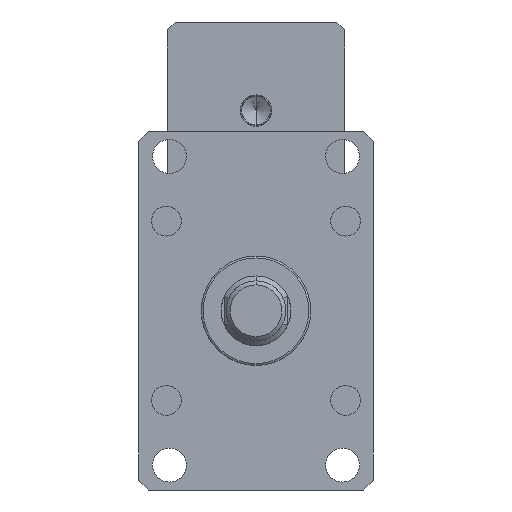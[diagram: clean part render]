
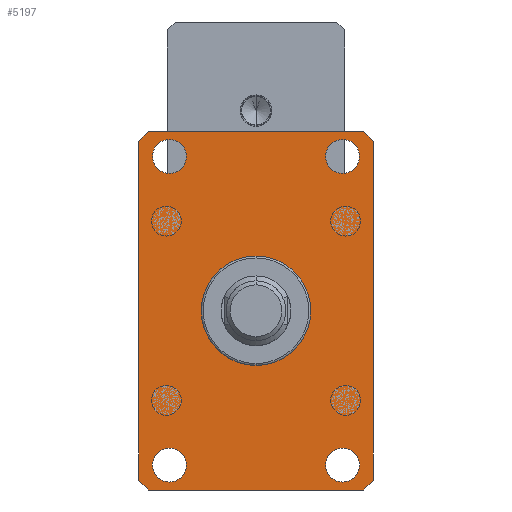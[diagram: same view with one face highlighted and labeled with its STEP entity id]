
A CAD part, front view. The second image highlights one B-rep face of the part: STEP entity #5197.
In plain terms, the highlighted planar face has unit normal (0, -1, 0).
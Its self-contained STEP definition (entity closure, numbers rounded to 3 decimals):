
#35 = CIRCLE ( 'NONE', #331, 8.5 ) ;
#55 = LINE ( 'NONE', #11313, #7815 ) ;
#56 = PLANE ( 'NONE',  #8055 ) ;
#60 = EDGE_CURVE ( 'NONE', #4191, #1963, #3021, .T. ) ;
#70 = CARTESIAN_POINT ( 'NONE',  ( -54., -55., 90. ) ) ;
#120 = VERTEX_POINT ( 'NONE', #70 ) ;
#227 = CARTESIAN_POINT ( 'NONE',  ( 59., -55., -85. ) ) ;
#240 = CIRCLE ( 'NONE', #5746, 8.5 ) ;
#331 = AXIS2_PLACEMENT_3D ( 'NONE', #10711, #4951, #11686 ) ;
#368 = DIRECTION ( 'NONE',  ( 0., 0., 1. ) ) ;
#477 = AXIS2_PLACEMENT_3D ( 'NONE', #11969, #6225, #368 ) ;
#603 = ORIENTED_EDGE ( 'NONE', *, *, #4430, .T. ) ;
#670 = ORIENTED_EDGE ( 'NONE', *, *, #6238, .F. ) ;
#756 = VERTEX_POINT ( 'NONE', #6254 ) ;
#789 = ORIENTED_EDGE ( 'NONE', *, *, #7991, .T. ) ;
#917 = DIRECTION ( 'NONE',  ( 0., 1., 0. ) ) ;
#1025 = DIRECTION ( 'NONE',  ( 0., 0., 1. ) ) ;
#1121 = CIRCLE ( 'NONE', #477, 8.5 ) ;
#1174 = DIRECTION ( 'NONE',  ( 0.707, 0., 0.707 ) ) ;
#1267 = ORIENTED_EDGE ( 'NONE', *, *, #60, .F. ) ;
#1363 = VERTEX_POINT ( 'NONE', #2642 ) ;
#1384 = CIRCLE ( 'NONE', #6865, 8.5 ) ;
#1399 = CIRCLE ( 'NONE', #9119, 8.5 ) ;
#1408 = FACE_BOUND ( 'NONE', #2543, .T. ) ;
#1484 = EDGE_CURVE ( 'NONE', #11300, #4859, #6363, .T. ) ;
#1696 = CARTESIAN_POINT ( 'NONE',  ( 54., -55., 90. ) ) ;
#1963 = VERTEX_POINT ( 'NONE', #5505 ) ;
#1997 = VERTEX_POINT ( 'NONE', #11362 ) ;
#2142 = EDGE_LOOP ( 'NONE', ( #3308, #11932 ) ) ;
#2332 = CARTESIAN_POINT ( 'NONE',  ( -43.5, -55., -69. ) ) ;
#2524 = CARTESIAN_POINT ( 'NONE',  ( 54., -55., 90. ) ) ;
#2543 = EDGE_LOOP ( 'NONE', ( #670, #5198 ) ) ;
#2563 = VERTEX_POINT ( 'NONE', #5664 ) ;
#2642 = CARTESIAN_POINT ( 'NONE',  ( -59., -55., 85. ) ) ;
#2652 = DIRECTION ( 'NONE',  ( -0.707, 0., -0.707 ) ) ;
#2956 = AXIS2_PLACEMENT_3D ( 'NONE', #5819, #12522, #6762 ) ;
#2965 = CARTESIAN_POINT ( 'NONE',  ( -43.5, -55., -77.5 ) ) ;
#3021 = CIRCLE ( 'NONE', #2956, 8.5 ) ;
#3200 = ORIENTED_EDGE ( 'NONE', *, *, #6112, .F. ) ;
#3262 = DIRECTION ( 'NONE',  ( 0., -1., 0. ) ) ;
#3308 = ORIENTED_EDGE ( 'NONE', *, *, #8142, .T. ) ;
#3430 = CARTESIAN_POINT ( 'NONE',  ( 43.5, -55., 77.5 ) ) ;
#3498 = EDGE_LOOP ( 'NONE', ( #603, #5841 ) ) ;
#3530 = DIRECTION ( 'NONE',  ( -0.707, 0., 0.707 ) ) ;
#3598 = CARTESIAN_POINT ( 'NONE',  ( 59., -55., 85. ) ) ;
#3965 = DIRECTION ( 'NONE',  ( 0., 0., 1. ) ) ;
#4038 = FACE_BOUND ( 'NONE', #10050, .T. ) ;
#4124 = EDGE_LOOP ( 'NONE', ( #5598, #6821, #6423, #789, #6303, #11714, #7271, #10001 ) ) ;
#4185 = CARTESIAN_POINT ( 'NONE',  ( 43.5, -55., -77.5 ) ) ;
#4191 = VERTEX_POINT ( 'NONE', #7656 ) ;
#4389 = VECTOR ( 'NONE', #7648, 1000. ) ;
#4393 = EDGE_CURVE ( 'NONE', #2563, #1997, #9288, .T. ) ;
#4400 = CARTESIAN_POINT ( 'NONE',  ( -54., -55., -90. ) ) ;
#4406 = CARTESIAN_POINT ( 'NONE',  ( 43.5, -55., 69. ) ) ;
#4412 = EDGE_CURVE ( 'NONE', #1363, #9359, #6752, .T. ) ;
#4417 = DIRECTION ( 'NONE',  ( 0., 0., -1. ) ) ;
#4430 = EDGE_CURVE ( 'NONE', #7416, #756, #8696, .T. ) ;
#4586 = EDGE_CURVE ( 'NONE', #7285, #5043, #9440, .T. ) ;
#4600 = CARTESIAN_POINT ( 'NONE',  ( -59., -55., 85. ) ) ;
#4825 = EDGE_CURVE ( 'NONE', #756, #7416, #1121, .T. ) ;
#4859 = VERTEX_POINT ( 'NONE', #2332 ) ;
#4893 = EDGE_CURVE ( 'NONE', #11651, #11508, #240, .T. ) ;
#4951 = DIRECTION ( 'NONE',  ( 0., -1., 0. ) ) ;
#4998 = VECTOR ( 'NONE', #2652, 1000. ) ;
#5002 = EDGE_CURVE ( 'NONE', #1997, #7285, #10984, .T. ) ;
#5043 = VERTEX_POINT ( 'NONE', #1696 ) ;
#5089 = CARTESIAN_POINT ( 'NONE',  ( -59., -55., 85. ) ) ;
#5174 = DIRECTION ( 'NONE',  ( 0., 0., 1. ) ) ;
#5197 = ADVANCED_FACE ( 'NONE', ( #4038, #11450, #8862, #6336, #1408 ), #56, .F. ) ;
#5198 = ORIENTED_EDGE ( 'NONE', *, *, #4893, .F. ) ;
#5438 = AXIS2_PLACEMENT_3D ( 'NONE', #6755, #917, #7713 ) ;
#5505 = CARTESIAN_POINT ( 'NONE',  ( -43.5, -55., 86. ) ) ;
#5558 = AXIS2_PLACEMENT_3D ( 'NONE', #4185, #10929, #5174 ) ;
#5598 = ORIENTED_EDGE ( 'NONE', *, *, #9590, .T. ) ;
#5664 = CARTESIAN_POINT ( 'NONE',  ( 54., -55., -90. ) ) ;
#5746 = AXIS2_PLACEMENT_3D ( 'NONE', #3430, #10180, #4417 ) ;
#5809 = CARTESIAN_POINT ( 'NONE',  ( -43.5, -55., -86. ) ) ;
#5819 = CARTESIAN_POINT ( 'NONE',  ( -43.5, -55., 77.5 ) ) ;
#5841 = ORIENTED_EDGE ( 'NONE', *, *, #4825, .T. ) ;
#6112 = EDGE_CURVE ( 'NONE', #1963, #4191, #35, .T. ) ;
#6135 = CARTESIAN_POINT ( 'NONE',  ( 43.5, -55., 86. ) ) ;
#6225 = DIRECTION ( 'NONE',  ( 0., 1., 0. ) ) ;
#6238 = EDGE_CURVE ( 'NONE', #11508, #11651, #1384, .T. ) ;
#6254 = CARTESIAN_POINT ( 'NONE',  ( 43.5, -55., -86. ) ) ;
#6303 = ORIENTED_EDGE ( 'NONE', *, *, #10011, .T. ) ;
#6336 = FACE_OUTER_BOUND ( 'NONE', #4124, .T. ) ;
#6363 = CIRCLE ( 'NONE', #5438, 8.5 ) ;
#6423 = ORIENTED_EDGE ( 'NONE', *, *, #4412, .T. ) ;
#6454 = VECTOR ( 'NONE', #7988, 1000. ) ;
#6509 = VECTOR ( 'NONE', #7915, 1000. ) ;
#6752 = LINE ( 'NONE', #5089, #6454 ) ;
#6755 = CARTESIAN_POINT ( 'NONE',  ( -43.5, -55., -77.5 ) ) ;
#6762 = DIRECTION ( 'NONE',  ( 0., 0., -1. ) ) ;
#6821 = ORIENTED_EDGE ( 'NONE', *, *, #12146, .T. ) ;
#6865 = AXIS2_PLACEMENT_3D ( 'NONE', #9044, #3262, #10023 ) ;
#6871 = DIRECTION ( 'NONE',  ( 0., 1., 0. ) ) ;
#7082 = CARTESIAN_POINT ( 'NONE',  ( 59., -55., 85. ) ) ;
#7188 = VECTOR ( 'NONE', #3530, 1000. ) ;
#7271 = ORIENTED_EDGE ( 'NONE', *, *, #5002, .T. ) ;
#7285 = VERTEX_POINT ( 'NONE', #7082 ) ;
#7406 = CARTESIAN_POINT ( 'NONE',  ( -59., -55., -85. ) ) ;
#7416 = VERTEX_POINT ( 'NONE', #8233 ) ;
#7648 = DIRECTION ( 'NONE',  ( 1., 0., 0. ) ) ;
#7656 = CARTESIAN_POINT ( 'NONE',  ( -43.5, -55., 69. ) ) ;
#7713 = DIRECTION ( 'NONE',  ( 0., 0., 1. ) ) ;
#7815 = VECTOR ( 'NONE', #12283, 1000. ) ;
#7895 = VERTEX_POINT ( 'NONE', #4400 ) ;
#7915 = DIRECTION ( 'NONE',  ( -1., 0., 0. ) ) ;
#7988 = DIRECTION ( 'NONE',  ( 0., 0., -1. ) ) ;
#7991 = EDGE_CURVE ( 'NONE', #9359, #7895, #55, .T. ) ;
#8055 = AXIS2_PLACEMENT_3D ( 'NONE', #8747, #6871, #1025 ) ;
#8142 = EDGE_CURVE ( 'NONE', #4859, #11300, #1399, .T. ) ;
#8233 = CARTESIAN_POINT ( 'NONE',  ( 43.5, -55., -69. ) ) ;
#8418 = VECTOR ( 'NONE', #10344, 1000. ) ;
#8696 = CIRCLE ( 'NONE', #5558, 8.5 ) ;
#8747 = CARTESIAN_POINT ( 'NONE',  ( 59., -55., 90. ) ) ;
#8862 = FACE_BOUND ( 'NONE', #2142, .T. ) ;
#9044 = CARTESIAN_POINT ( 'NONE',  ( 43.5, -55., 77.5 ) ) ;
#9119 = AXIS2_PLACEMENT_3D ( 'NONE', #2965, #9735, #3965 ) ;
#9288 = LINE ( 'NONE', #227, #11581 ) ;
#9359 = VERTEX_POINT ( 'NONE', #7406 ) ;
#9440 = LINE ( 'NONE', #2524, #7188 ) ;
#9590 = EDGE_CURVE ( 'NONE', #5043, #120, #11016, .T. ) ;
#9735 = DIRECTION ( 'NONE',  ( 0., 1., 0. ) ) ;
#9833 = CARTESIAN_POINT ( 'NONE',  ( -54., -55., 90. ) ) ;
#10001 = ORIENTED_EDGE ( 'NONE', *, *, #4586, .T. ) ;
#10011 = EDGE_CURVE ( 'NONE', #7895, #2563, #12080, .T. ) ;
#10023 = DIRECTION ( 'NONE',  ( 0., 0., -1. ) ) ;
#10050 = EDGE_LOOP ( 'NONE', ( #3200, #1267 ) ) ;
#10098 = LINE ( 'NONE', #4600, #4998 ) ;
#10180 = DIRECTION ( 'NONE',  ( 0., -1., 0. ) ) ;
#10344 = DIRECTION ( 'NONE',  ( 0., 0., 1. ) ) ;
#10711 = CARTESIAN_POINT ( 'NONE',  ( -43.5, -55., 77.5 ) ) ;
#10929 = DIRECTION ( 'NONE',  ( 0., 1., 0. ) ) ;
#10984 = LINE ( 'NONE', #3598, #8418 ) ;
#11016 = LINE ( 'NONE', #9833, #6509 ) ;
#11300 = VERTEX_POINT ( 'NONE', #5809 ) ;
#11313 = CARTESIAN_POINT ( 'NONE',  ( -59., -55., -85. ) ) ;
#11362 = CARTESIAN_POINT ( 'NONE',  ( 59., -55., -85. ) ) ;
#11450 = FACE_BOUND ( 'NONE', #3498, .T. ) ;
#11494 = CARTESIAN_POINT ( 'NONE',  ( -54., -55., -90. ) ) ;
#11508 = VERTEX_POINT ( 'NONE', #6135 ) ;
#11581 = VECTOR ( 'NONE', #1174, 1000. ) ;
#11651 = VERTEX_POINT ( 'NONE', #4406 ) ;
#11686 = DIRECTION ( 'NONE',  ( 0., 0., -1. ) ) ;
#11714 = ORIENTED_EDGE ( 'NONE', *, *, #4393, .T. ) ;
#11932 = ORIENTED_EDGE ( 'NONE', *, *, #1484, .T. ) ;
#11969 = CARTESIAN_POINT ( 'NONE',  ( 43.5, -55., -77.5 ) ) ;
#12080 = LINE ( 'NONE', #11494, #4389 ) ;
#12146 = EDGE_CURVE ( 'NONE', #120, #1363, #10098, .T. ) ;
#12283 = DIRECTION ( 'NONE',  ( 0.707, 0., -0.707 ) ) ;
#12522 = DIRECTION ( 'NONE',  ( 0., -1., 0. ) ) ;
